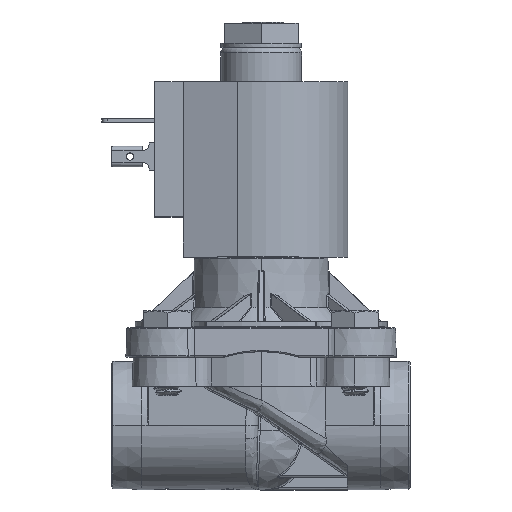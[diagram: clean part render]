
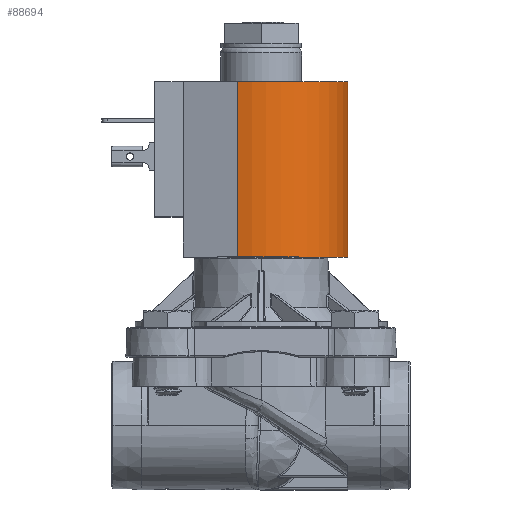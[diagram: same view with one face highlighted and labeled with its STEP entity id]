
A CAD part, top view. The second image highlights one B-rep face of the part: STEP entity #88694.
In plain terms, the highlighted cylindrical face has radius 20.32 mm (diameter 40.64 mm), a partial arc.
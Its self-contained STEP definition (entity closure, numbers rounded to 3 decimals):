
#2276 = VECTOR ( 'NONE', #58516, 1000. ) ;
#3556 = ORIENTED_EDGE ( 'NONE', *, *, #86737, .F. ) ;
#4631 = EDGE_CURVE ( 'NONE', #32032, #14462, #80222, .T. ) ;
#6446 = DIRECTION ( 'NONE',  ( 0., -1., 0. ) ) ;
#9611 = DIRECTION ( 'NONE',  ( 0., 1., 0. ) ) ;
#10637 = CARTESIAN_POINT ( 'NONE',  ( 20.348, 73.534, 0.001 ) ) ;
#13025 = VERTEX_POINT ( 'NONE', #97651 ) ;
#14462 = VERTEX_POINT ( 'NONE', #82434 ) ;
#14620 = CARTESIAN_POINT ( 'NONE',  ( 0.028, 73.534, 0.001 ) ) ;
#15433 = ORIENTED_EDGE ( 'NONE', *, *, #4631, .T. ) ;
#25335 = LINE ( 'NONE', #10637, #2276 ) ;
#26008 = CIRCLE ( 'NONE', #50292, 20.32 ) ;
#28515 = DIRECTION ( 'NONE',  ( -1., 0., 0. ) ) ;
#29669 = CARTESIAN_POINT ( 'NONE',  ( -5.58, 73.534, 19.531 ) ) ;
#32032 = VERTEX_POINT ( 'NONE', #78059 ) ;
#33864 = ORIENTED_EDGE ( 'NONE', *, *, #49615, .T. ) ;
#34548 = CARTESIAN_POINT ( 'NONE',  ( 0.028, 73.534, 0.001 ) ) ;
#42777 = DIRECTION ( 'NONE',  ( -1., 0., 0. ) ) ;
#49615 = EDGE_CURVE ( 'NONE', #14462, #53172, #26008, .T. ) ;
#50292 = AXIS2_PLACEMENT_3D ( 'NONE', #84088, #9611, #42777 ) ;
#53172 = VERTEX_POINT ( 'NONE', #76228 ) ;
#54689 = DIRECTION ( 'NONE',  ( 0., -1., 0. ) ) ;
#55958 = CYLINDRICAL_SURFACE ( 'NONE', #58047, 20.32 ) ;
#58047 = AXIS2_PLACEMENT_3D ( 'NONE', #14620, #6446, #72779 ) ;
#58516 = DIRECTION ( 'NONE',  ( 0., -1., 0. ) ) ;
#60836 = VECTOR ( 'NONE', #54689, 1000. ) ;
#66777 = FACE_OUTER_BOUND ( 'NONE', #93452, .T. ) ;
#67707 = DIRECTION ( 'NONE',  ( 0., 1., 0. ) ) ;
#72779 = DIRECTION ( 'NONE',  ( 1., 0., 0. ) ) ;
#76198 = CIRCLE ( 'NONE', #107325, 20.32 ) ;
#76228 = CARTESIAN_POINT ( 'NONE',  ( 20.348, 32.386, 0.001 ) ) ;
#77594 = EDGE_CURVE ( 'NONE', #32032, #13025, #76198, .T. ) ;
#78059 = CARTESIAN_POINT ( 'NONE',  ( -5.58, 73.534, 19.531 ) ) ;
#80222 = LINE ( 'NONE', #29669, #60836 ) ;
#82434 = CARTESIAN_POINT ( 'NONE',  ( -5.58, 32.386, 19.531 ) ) ;
#84088 = CARTESIAN_POINT ( 'NONE',  ( 0.028, 32.386, 0.001 ) ) ;
#86737 = EDGE_CURVE ( 'NONE', #13025, #53172, #25335, .T. ) ;
#88694 = ADVANCED_FACE ( 'Defeatured_0_1780', ( #66777 ), #55958, .T. ) ;
#93452 = EDGE_LOOP ( 'NONE', ( #3556, #99802, #15433, #33864 ) ) ;
#97651 = CARTESIAN_POINT ( 'NONE',  ( 20.348, 73.534, 0.001 ) ) ;
#99802 = ORIENTED_EDGE ( 'NONE', *, *, #77594, .F. ) ;
#107325 = AXIS2_PLACEMENT_3D ( 'NONE', #34548, #67707, #28515 ) ;
